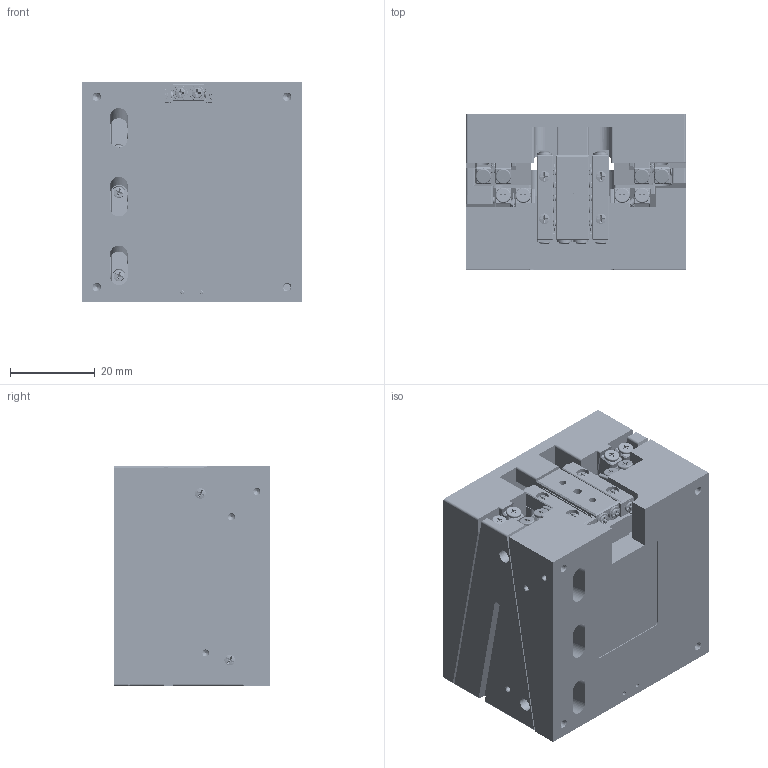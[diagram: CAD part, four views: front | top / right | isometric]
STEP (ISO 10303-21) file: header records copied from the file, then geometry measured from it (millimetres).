
FILE_DESCRIPTION (( 'STEP AP214' ), '1' );
FILE_NAME ('YHS-5237 大负载Z向纳米直线电机.STEP', '2026-01-15T03:35:37', ( '' ), ( '' ), 'SwSTEP 2.0', 'SolidWorks 2022', '' );
FILE_SCHEMA (( 'AUTOMOTIVE_DESIGN' ));
Length unit declared in the file: millimetre
Products named in the file (1): YHS-5237 大负载Z向纳米直线电机
Bounding box: 52 x 36.66 x 52 mm (x, y, z)
Volume: 75087.9 mm3; surface area: 47410 mm2
Topology: 160 solids, 168 shells, 6498 faces, 15600 edges, 9489 vertices
Faces by surface type: plane 3320, cylinder 1629, cone 860, torus 558, sphere 131
Entity records: 259660 total; most frequent: CARTESIAN_POINT 35915, DIRECTION 32640, ORIENTED_EDGE 30820, EDGE_CURVE 15410, AXIS2_PLACEMENT_3D 12072, VERTEX_POINT 9481, LINE 8496, VECTOR 8496
